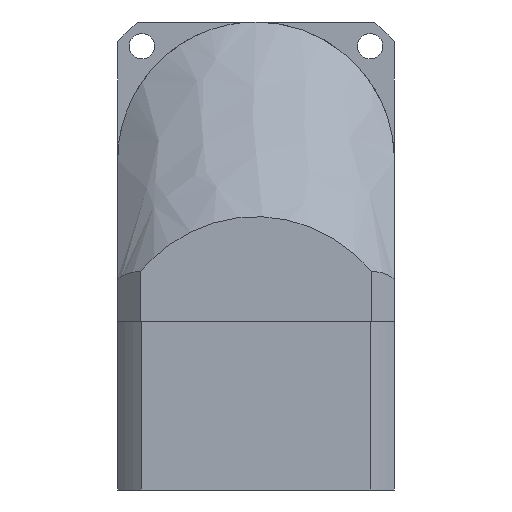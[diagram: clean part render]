
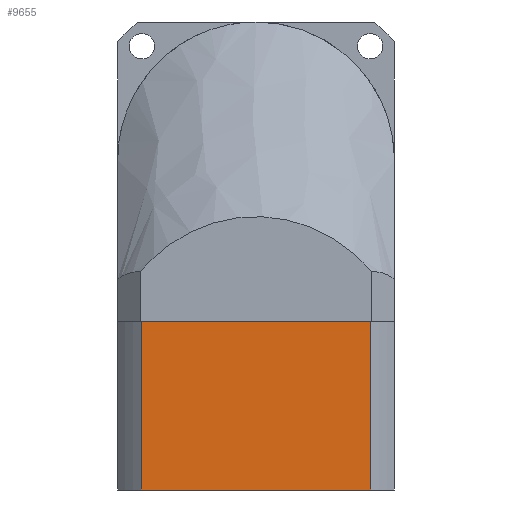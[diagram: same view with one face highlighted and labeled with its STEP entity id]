
A CAD part, front view. The second image highlights one B-rep face of the part: STEP entity #9655.
In plain terms, the highlighted planar face has unit normal (0, -1, 0).
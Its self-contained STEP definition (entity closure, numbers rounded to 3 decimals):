
#2623 = DIRECTION ( 'NONE',  ( 0., 0., -1. ) ) ;
#3705 = ORIENTED_EDGE ( 'NONE', *, *, #38432, .T. ) ;
#4282 = LINE ( 'NONE', #33320, #6561 ) ;
#5559 = CARTESIAN_POINT ( 'NONE',  ( -30., -30., 0. ) ) ;
#5565 = VERTEX_POINT ( 'NONE', #15469 ) ;
#5696 = VERTEX_POINT ( 'NONE', #16212 ) ;
#5937 = DIRECTION ( 'NONE',  ( 0., 0., -1. ) ) ;
#6561 = VECTOR ( 'NONE', #37044, 1000. ) ;
#6868 = ORIENTED_EDGE ( 'NONE', *, *, #47651, .T. ) ;
#8381 = VERTEX_POINT ( 'NONE', #23582 ) ;
#9462 = CARTESIAN_POINT ( 'NONE',  ( -30., -30., -36.5 ) ) ;
#9655 = ADVANCED_FACE ( 'NONE', ( #41861 ), #46353, .T. ) ;
#9727 = EDGE_CURVE ( 'NONE', #36868, #5565, #40708, .T. ) ;
#11965 = ORIENTED_EDGE ( 'NONE', *, *, #9727, .T. ) ;
#15469 = CARTESIAN_POINT ( 'NONE',  ( -24.92, -30., -36.5 ) ) ;
#16212 = CARTESIAN_POINT ( 'NONE',  ( 24.92, -30., -36.5 ) ) ;
#18533 = VECTOR ( 'NONE', #35101, 1000. ) ;
#20285 = AXIS2_PLACEMENT_3D ( 'NONE', #9462, #28013, #5937 ) ;
#22231 = VECTOR ( 'NONE', #2623, 1000. ) ;
#23582 = CARTESIAN_POINT ( 'NONE',  ( 24.92, -30., 0. ) ) ;
#24130 = DIRECTION ( 'NONE',  ( 0., 0., 1. ) ) ;
#26885 = LINE ( 'NONE', #42020, #45312 ) ;
#28013 = DIRECTION ( 'NONE',  ( 0., -1., 0. ) ) ;
#30163 = CARTESIAN_POINT ( 'NONE',  ( -24.92, -30., 0. ) ) ;
#33320 = CARTESIAN_POINT ( 'NONE',  ( 0., -30., -36.5 ) ) ;
#35101 = DIRECTION ( 'NONE',  ( -1., 0., 0. ) ) ;
#35381 = EDGE_LOOP ( 'NONE', ( #11965, #3705, #43401, #6868 ) ) ;
#36497 = EDGE_CURVE ( 'NONE', #5696, #8381, #26885, .T. ) ;
#36868 = VERTEX_POINT ( 'NONE', #30163 ) ;
#37044 = DIRECTION ( 'NONE',  ( 1., 0., 0. ) ) ;
#38432 = EDGE_CURVE ( 'NONE', #5565, #5696, #4282, .T. ) ;
#40708 = LINE ( 'NONE', #46673, #22231 ) ;
#41861 = FACE_OUTER_BOUND ( 'NONE', #35381, .T. ) ;
#42020 = CARTESIAN_POINT ( 'NONE',  ( 24.92, -30., -36.5 ) ) ;
#43401 = ORIENTED_EDGE ( 'NONE', *, *, #36497, .T. ) ;
#45312 = VECTOR ( 'NONE', #24130, 1000. ) ;
#46353 = PLANE ( 'NONE',  #20285 ) ;
#46673 = CARTESIAN_POINT ( 'NONE',  ( -24.92, -30., -36.5 ) ) ;
#46741 = LINE ( 'NONE', #5559, #18533 ) ;
#47651 = EDGE_CURVE ( 'NONE', #8381, #36868, #46741, .T. ) ;
